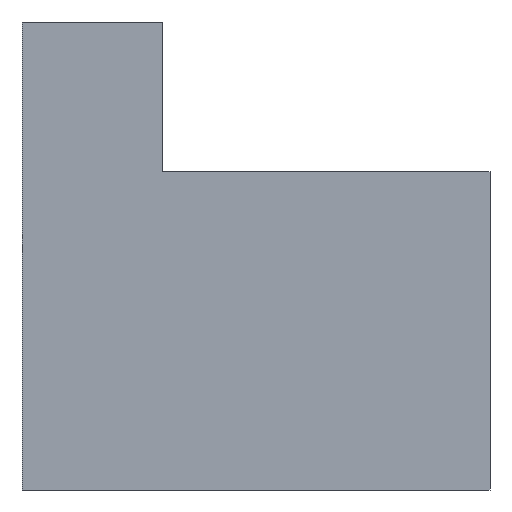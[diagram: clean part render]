
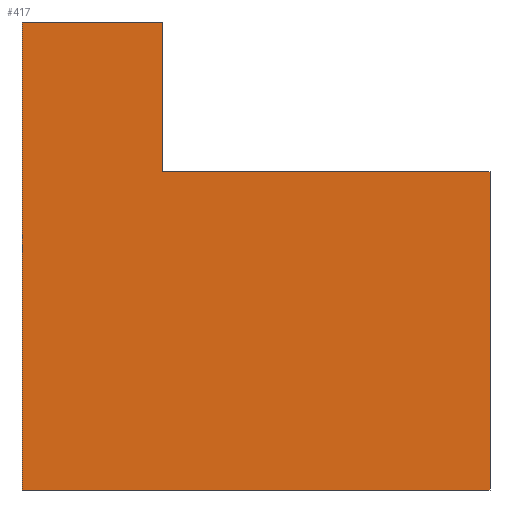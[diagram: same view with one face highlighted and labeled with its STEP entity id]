
A CAD part, left-side view. The second image highlights one B-rep face of the part: STEP entity #417.
In plain terms, the highlighted planar face has unit normal (-1, 0, 0).
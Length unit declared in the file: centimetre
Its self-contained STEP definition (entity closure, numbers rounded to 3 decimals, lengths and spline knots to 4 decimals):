
#2 = EDGE_CURVE ( 'NONE', #451, #309, #67, .T. ) ;
#5 = CARTESIAN_POINT ( 'NONE',  ( 0., 0., 1000. ) ) ;
#8 = DIRECTION ( 'NONE',  ( 0., -1., 0. ) ) ;
#16 = VECTOR ( 'NONE', #38, 100. ) ;
#21 = LINE ( 'NONE', #132, #23 ) ;
#23 = VECTOR ( 'NONE', #268, 100. ) ;
#32 = DIRECTION ( 'NONE',  ( 0., 0., -1. ) ) ;
#38 = DIRECTION ( 'NONE',  ( 0., -1., 0. ) ) ;
#54 = CARTESIAN_POINT ( 'NONE',  ( 0., 0., 679.6947 ) ) ;
#67 = LINE ( 'NONE', #331, #230 ) ;
#86 = PLANE ( 'NONE',  #135 ) ;
#114 = ORIENTED_EDGE ( 'NONE', *, *, #346, .F. ) ;
#116 = LINE ( 'NONE', #5, #465 ) ;
#132 = CARTESIAN_POINT ( 'NONE',  ( 0., 700.4675, 679.6947 ) ) ;
#135 = AXIS2_PLACEMENT_3D ( 'NONE', #220, #414, #255 ) ;
#141 = ORIENTED_EDGE ( 'NONE', *, *, #301, .T. ) ;
#147 = CARTESIAN_POINT ( 'NONE',  ( 0., 1000., 1000. ) ) ;
#156 = EDGE_CURVE ( 'NONE', #275, #372, #21, .T. ) ;
#164 = DIRECTION ( 'NONE',  ( 0., 0., -1. ) ) ;
#199 = VECTOR ( 'NONE', #32, 100. ) ;
#211 = CARTESIAN_POINT ( 'NONE',  ( 0., 700.4675, 679.6947 ) ) ;
#213 = LINE ( 'NONE', #358, #199 ) ;
#220 = CARTESIAN_POINT ( 'NONE',  ( 0., 1000., 1000. ) ) ;
#221 = EDGE_LOOP ( 'NONE', ( #252, #262, #310, #114, #356, #141 ) ) ;
#230 = VECTOR ( 'NONE', #164, 100. ) ;
#252 = ORIENTED_EDGE ( 'NONE', *, *, #439, .F. ) ;
#255 = DIRECTION ( 'NONE',  ( 0., 0., -1. ) ) ;
#262 = ORIENTED_EDGE ( 'NONE', *, *, #156, .F. ) ;
#267 = CARTESIAN_POINT ( 'NONE',  ( 0., 700.4675, 1000. ) ) ;
#268 = DIRECTION ( 'NONE',  ( 0., -1., 0. ) ) ;
#275 = VERTEX_POINT ( 'NONE', #211 ) ;
#277 = VERTEX_POINT ( 'NONE', #267 ) ;
#286 = CARTESIAN_POINT ( 'NONE',  ( 0., 0., 0. ) ) ;
#297 = LINE ( 'NONE', #410, #366 ) ;
#301 = EDGE_CURVE ( 'NONE', #309, #471, #297, .T. ) ;
#309 = VERTEX_POINT ( 'NONE', #450 ) ;
#310 = ORIENTED_EDGE ( 'NONE', *, *, #397, .F. ) ;
#331 = CARTESIAN_POINT ( 'NONE',  ( 0., 1000., 1000. ) ) ;
#346 = EDGE_CURVE ( 'NONE', #451, #277, #380, .T. ) ;
#356 = ORIENTED_EDGE ( 'NONE', *, *, #2, .T. ) ;
#358 = CARTESIAN_POINT ( 'NONE',  ( 0., 700.4675, 679.6947 ) ) ;
#366 = VECTOR ( 'NONE', #8, 100. ) ;
#372 = VERTEX_POINT ( 'NONE', #54 ) ;
#380 = LINE ( 'NONE', #476, #16 ) ;
#397 = EDGE_CURVE ( 'NONE', #277, #275, #213, .T. ) ;
#410 = CARTESIAN_POINT ( 'NONE',  ( 0., 1000., 0. ) ) ;
#414 = DIRECTION ( 'NONE',  ( 1., 0., 0. ) ) ;
#417 = ADVANCED_FACE ( 'NONE', ( #456 ), #86, .F. ) ;
#439 = EDGE_CURVE ( 'NONE', #372, #471, #116, .T. ) ;
#449 = DIRECTION ( 'NONE',  ( 0., 0., -1. ) ) ;
#450 = CARTESIAN_POINT ( 'NONE',  ( 0., 1000., 0. ) ) ;
#451 = VERTEX_POINT ( 'NONE', #147 ) ;
#456 = FACE_OUTER_BOUND ( 'NONE', #221, .T. ) ;
#465 = VECTOR ( 'NONE', #449, 100. ) ;
#471 = VERTEX_POINT ( 'NONE', #286 ) ;
#476 = CARTESIAN_POINT ( 'NONE',  ( 0., 1000., 1000. ) ) ;
